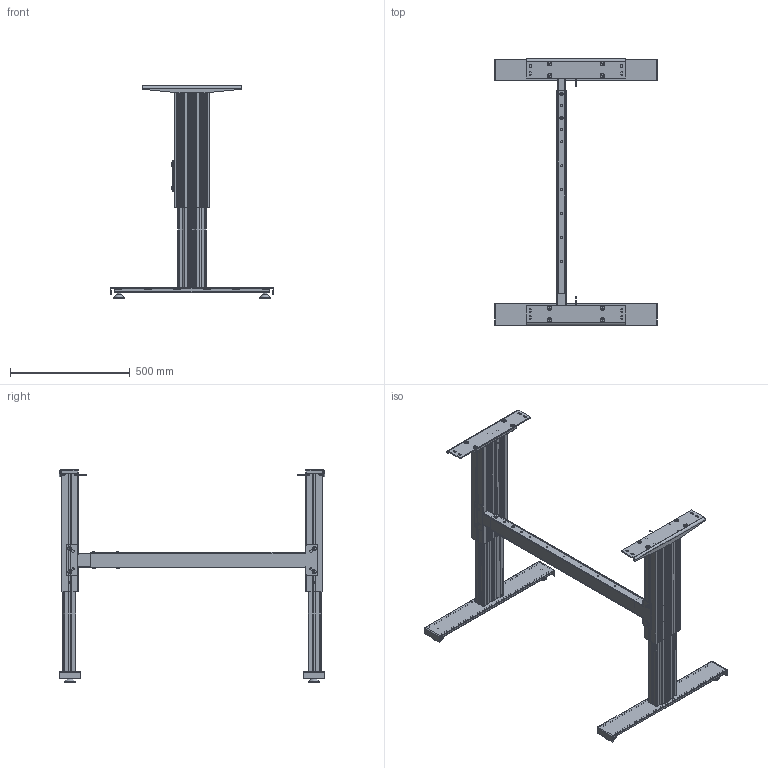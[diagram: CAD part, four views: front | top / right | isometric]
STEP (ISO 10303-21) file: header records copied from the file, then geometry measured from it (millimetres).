
FILE_DESCRIPTION(/* description */ ('Unknown'),/* implementation_level */ '2;1');
FILE_NAME(/* name */ '108.00313_01-Ausgefahren',/* time_stamp */ '2022-02-10T09:30:31+01:00',/* author */ ('Unknown'),/* organization */ ('Unknown'),/* preprocessor_version */ 'ST-DEVELOPER v18.1',/* originating_system */ 'Solid Edge',/* authorisation */ 'Unknown');
FILE_SCHEMA (('AUTOMOTIVE_DESIGN {1 0 10303 214 3 1 1}'));
Products named in the file (35): 108.00313; 306.00813_oa_0; 126.00147; 119.00315; 119.00314; 142.00166; 142.00343; 113.00002; 124.00123; 109.00024_oa_1; 115.00008_oa_2; 306.00813_oa_3; 109.00024_oa_4; 115.00008_oa_5; 127.00635; 060339~2; 060340~3; Sechskantmutter M6 DIN 934; Scheibe Ø6,4 DIN 125; Halbrundkopfschraube mit Innensechskant M8x12 ISO 7380-1; Scheibe Ø8,4 DIN 125; Nutenstein M8_montiert; Halbrundkopfschraube mit Innensechskant und Bund M6x16 ISO 7380-2; 127.00545; 127.00548; 127.00566; 127.00567; 127.00548_461_469_Kehlnaht 1_oa_6; 113.00006; 113.00006-ohne Mutter; Mutter M10; 115.00165; 127.00223; 142.00279; 142.00068
Assembly tree (76 placements, depth 4):
  108.00313
    306.00813_oa_0
      126.00147
      119.00315
      119.00314
      142.00166  x4
      142.00343  x2
      113.00002
      124.00123
      109.00024_oa_1
        115.00008_oa_2
    306.00813_oa_3
      126.00147
      119.00315
      119.00314
      142.00166  x4
      142.00343  x2
      113.00002
      124.00123
      109.00024_oa_4
        115.00008_oa_5
    127.00635
      060339~2
      060340~3
      Sechskantmutter M6 DIN 934  x4
      Scheibe Ø6,4 DIN 125  x4
      Halbrundkopfschraube mit Innensechskant M8x12 ISO 7380-1  x4
      Scheibe Ø8,4 DIN 125  x4
      Nutenstein M8_montiert  x4
      Halbrundkopfschraube mit Innensechskant und Bund M6x16 ISO 7380-2  x4
    127.00545  x2
      127.00548
        127.00566
        127.00567
        127.00548_461_469_Kehlnaht 1_oa_6
      113.00006
        113.00006-ohne Mutter
        Mutter M10
    115.00165  x2
      127.00223
      142.00279
      142.00068
Bounding box: 680 x 1110 x 887 mm (x, y, z)
Volume: 6585146.5 mm3; surface area: 3454187.1 mm2
Topology: 102 solids, 102 shells, 6080 faces, 17067 edges, 11263 vertices
Faces by surface type: plane 3316, cylinder 2344, cone 234, torus 108, bspline 74, sphere 4
Full cylindrical faces by diameter (mm): 2.2 x2, 3.242 x4, 3.4 x2, 4 x6, 5 x10, 5.5 x8, 6 x8, 6.4 x4, 6.6 x2, 6.647 x12, 7 x16, 8 x18, 8.376 x10, 8.5 x28, 8.7 x8, 9 x8, 9.5 x4, 10 x4, 12 x4, 12.5 x2, 13.5 x2, 13.6 x4, 14 x4, 15 x4, 16.8 x4, 19 x4, 25 x14, 29 x4, 30 x4, 35 x4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
Entity records: 102406 total; most frequent: CARTESIAN_POINT 17486, ORIENTED_EDGE 15324, DIRECTION 15086, EDGE_CURVE 7662, VERTEX_POINT 5149, AXIS2_PLACEMENT_3D 5058, LINE 4970, VECTOR 4970
